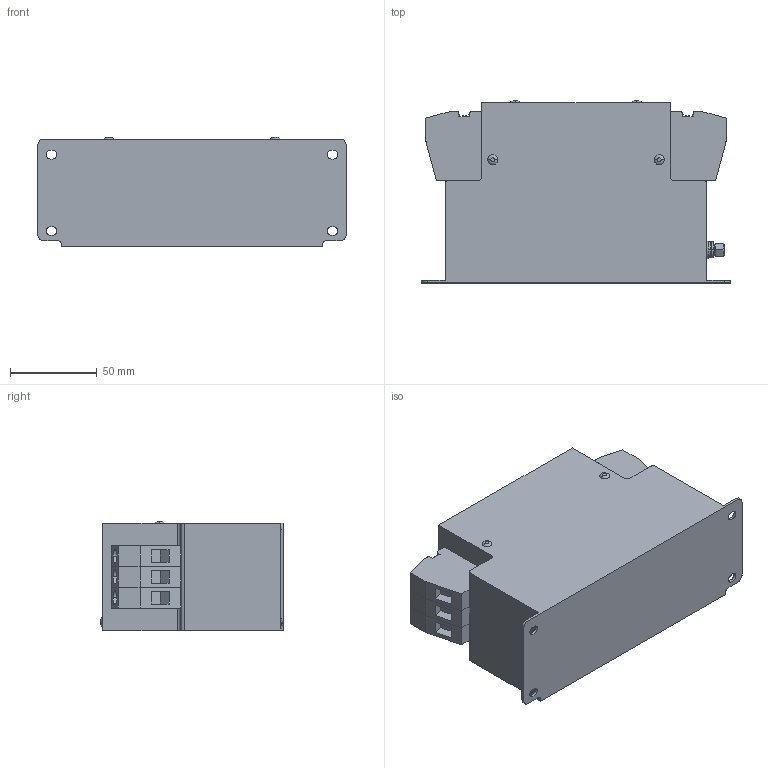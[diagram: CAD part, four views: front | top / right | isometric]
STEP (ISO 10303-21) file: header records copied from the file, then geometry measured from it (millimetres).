
FILE_DESCRIPTION (( 'STEP AP214' ), '1' );
FILE_NAME ('NF-50-BFG(-LL).STEP', '2023-08-25T08:11:57', ( '' ), ( '' ), 'SwSTEP 2.0', 'SolidWorks 2021', '' );
FILE_SCHEMA (( 'AUTOMOTIVE_DESIGN' ));
Length unit declared in the file: millimetre
Products named in the file (7): din125-1-a_5_3-140_hv_-_c4; HDFK_16; mutter_din_en_24034-m5-5; NF-50-BFG; NF-50-BFG(-LL); 625125; hdfk_16_vp
Assembly tree (12 placements, depth 3):
  NF-50-BFG(-LL)
    NF-50-BFG
    HDFK_16  x3
      hdfk_16_vp
    hdfk_16_vp  x3
    din125-1-a_5_3-140_hv_-_c4
    625125  x2
    mutter_din_en_24034-m5-5
Bounding box: 178 x 105 x 63 mm (x, y, z)
Volume: 953183.7 mm3; surface area: 98107.4 mm2
Topology: 11 solids, 11 shells, 601 faces, 1526 edges, 1006 vertices
Faces by surface type: plane 377, cylinder 176, cone 22, bspline 18, torus 8
Entity records: 6596 total; most frequent: CARTESIAN_POINT 1034, DIRECTION 947, ORIENTED_EDGE 884, EDGE_CURVE 442, AXIS2_PLACEMENT_3D 339, VERTEX_POINT 290, LINE 269, VECTOR 269
